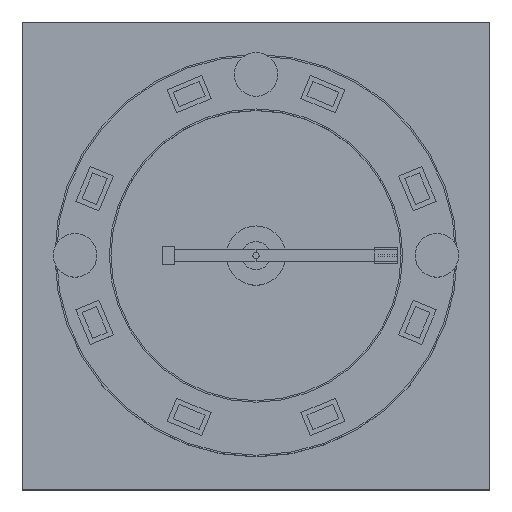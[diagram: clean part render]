
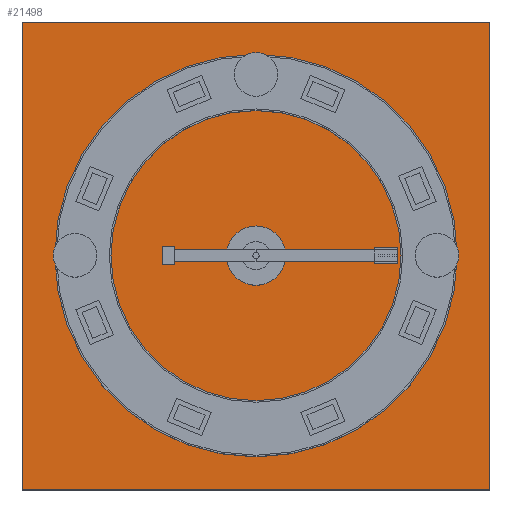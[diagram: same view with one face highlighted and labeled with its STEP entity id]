
A CAD part, top view. The second image highlights one B-rep face of the part: STEP entity #21498.
In plain terms, the highlighted planar face has unit normal (0, 0, 1).
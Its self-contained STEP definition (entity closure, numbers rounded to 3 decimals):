
#21184 = VERTEX_POINT('',#21185);
#21185 = CARTESIAN_POINT('',(-750.,-750.,-710.));
#21192 = PLANE('',#21193);
#21193 = AXIS2_PLACEMENT_3D('',#21194,#21195,#21196);
#21194 = CARTESIAN_POINT('',(-750.,-750.,-730.));
#21195 = DIRECTION('',(1.,0.,-0.));
#21196 = DIRECTION('',(0.,0.,1.));
#21204 = PLANE('',#21205);
#21205 = AXIS2_PLACEMENT_3D('',#21206,#21207,#21208);
#21206 = CARTESIAN_POINT('',(-750.,-750.,-730.));
#21207 = DIRECTION('',(-0.,1.,0.));
#21208 = DIRECTION('',(0.,0.,1.));
#21245 = VERTEX_POINT('',#21246);
#21246 = CARTESIAN_POINT('',(-750.,750.,-710.));
#21260 = PLANE('',#21261);
#21261 = AXIS2_PLACEMENT_3D('',#21262,#21263,#21264);
#21262 = CARTESIAN_POINT('',(-750.,750.,-730.));
#21263 = DIRECTION('',(-0.,1.,0.));
#21264 = DIRECTION('',(0.,0.,1.));
#21272 = EDGE_CURVE('',#21184,#21245,#21273,.T.);
#21273 = SURFACE_CURVE('',#21274,(#21278,#21285),.PCURVE_S1.);
#21274 = LINE('',#21275,#21276);
#21275 = CARTESIAN_POINT('',(-750.,-750.,-710.));
#21276 = VECTOR('',#21277,1.);
#21277 = DIRECTION('',(-0.,1.,0.));
#21278 = PCURVE('',#21192,#21279);
#21279 = DEFINITIONAL_REPRESENTATION('',(#21280),#21284);
#21280 = LINE('',#21281,#21282);
#21281 = CARTESIAN_POINT('',(20.,0.));
#21282 = VECTOR('',#21283,1.);
#21283 = DIRECTION('',(0.,-1.));
#21284 = ( GEOMETRIC_REPRESENTATION_CONTEXT(2) 
PARAMETRIC_REPRESENTATION_CONTEXT() REPRESENTATION_CONTEXT('2D SPACE',''
  ) );
#21285 = PCURVE('',#21286,#21291);
#21286 = PLANE('',#21287);
#21287 = AXIS2_PLACEMENT_3D('',#21288,#21289,#21290);
#21288 = CARTESIAN_POINT('',(-750.,-750.,-710.));
#21289 = DIRECTION('',(0.,0.,1.));
#21290 = DIRECTION('',(1.,0.,-0.));
#21291 = DEFINITIONAL_REPRESENTATION('',(#21292),#21296);
#21292 = LINE('',#21293,#21294);
#21293 = CARTESIAN_POINT('',(0.,0.));
#21294 = VECTOR('',#21295,1.);
#21295 = DIRECTION('',(0.,1.));
#21296 = ( GEOMETRIC_REPRESENTATION_CONTEXT(2) 
PARAMETRIC_REPRESENTATION_CONTEXT() REPRESENTATION_CONTEXT('2D SPACE',''
  ) );
#21304 = VERTEX_POINT('',#21305);
#21305 = CARTESIAN_POINT('',(750.,-750.,-710.));
#21312 = PLANE('',#21313);
#21313 = AXIS2_PLACEMENT_3D('',#21314,#21315,#21316);
#21314 = CARTESIAN_POINT('',(750.,-750.,-730.));
#21315 = DIRECTION('',(1.,0.,-0.));
#21316 = DIRECTION('',(0.,0.,1.));
#21355 = VERTEX_POINT('',#21356);
#21356 = CARTESIAN_POINT('',(750.,750.,-710.));
#21377 = EDGE_CURVE('',#21304,#21355,#21378,.T.);
#21378 = SURFACE_CURVE('',#21379,(#21383,#21390),.PCURVE_S1.);
#21379 = LINE('',#21380,#21381);
#21380 = CARTESIAN_POINT('',(750.,-750.,-710.));
#21381 = VECTOR('',#21382,1.);
#21382 = DIRECTION('',(-0.,1.,0.));
#21383 = PCURVE('',#21312,#21384);
#21384 = DEFINITIONAL_REPRESENTATION('',(#21385),#21389);
#21385 = LINE('',#21386,#21387);
#21386 = CARTESIAN_POINT('',(20.,0.));
#21387 = VECTOR('',#21388,1.);
#21388 = DIRECTION('',(0.,-1.));
#21389 = ( GEOMETRIC_REPRESENTATION_CONTEXT(2) 
PARAMETRIC_REPRESENTATION_CONTEXT() REPRESENTATION_CONTEXT('2D SPACE',''
  ) );
#21390 = PCURVE('',#21286,#21391);
#21391 = DEFINITIONAL_REPRESENTATION('',(#21392),#21396);
#21392 = LINE('',#21393,#21394);
#21393 = CARTESIAN_POINT('',(1500.,0.));
#21394 = VECTOR('',#21395,1.);
#21395 = DIRECTION('',(0.,1.));
#21396 = ( GEOMETRIC_REPRESENTATION_CONTEXT(2) 
PARAMETRIC_REPRESENTATION_CONTEXT() REPRESENTATION_CONTEXT('2D SPACE',''
  ) );
#21423 = EDGE_CURVE('',#21184,#21304,#21424,.T.);
#21424 = SURFACE_CURVE('',#21425,(#21429,#21436),.PCURVE_S1.);
#21425 = LINE('',#21426,#21427);
#21426 = CARTESIAN_POINT('',(-750.,-750.,-710.));
#21427 = VECTOR('',#21428,1.);
#21428 = DIRECTION('',(1.,0.,-0.));
#21429 = PCURVE('',#21204,#21430);
#21430 = DEFINITIONAL_REPRESENTATION('',(#21431),#21435);
#21431 = LINE('',#21432,#21433);
#21432 = CARTESIAN_POINT('',(20.,0.));
#21433 = VECTOR('',#21434,1.);
#21434 = DIRECTION('',(0.,1.));
#21435 = ( GEOMETRIC_REPRESENTATION_CONTEXT(2) 
PARAMETRIC_REPRESENTATION_CONTEXT() REPRESENTATION_CONTEXT('2D SPACE',''
  ) );
#21436 = PCURVE('',#21286,#21437);
#21437 = DEFINITIONAL_REPRESENTATION('',(#21438),#21442);
#21438 = LINE('',#21439,#21440);
#21439 = CARTESIAN_POINT('',(0.,0.));
#21440 = VECTOR('',#21441,1.);
#21441 = DIRECTION('',(1.,0.));
#21442 = ( GEOMETRIC_REPRESENTATION_CONTEXT(2) 
PARAMETRIC_REPRESENTATION_CONTEXT() REPRESENTATION_CONTEXT('2D SPACE',''
  ) );
#21470 = EDGE_CURVE('',#21245,#21355,#21471,.T.);
#21471 = SURFACE_CURVE('',#21472,(#21476,#21483),.PCURVE_S1.);
#21472 = LINE('',#21473,#21474);
#21473 = CARTESIAN_POINT('',(-750.,750.,-710.));
#21474 = VECTOR('',#21475,1.);
#21475 = DIRECTION('',(1.,0.,-0.));
#21476 = PCURVE('',#21260,#21477);
#21477 = DEFINITIONAL_REPRESENTATION('',(#21478),#21482);
#21478 = LINE('',#21479,#21480);
#21479 = CARTESIAN_POINT('',(20.,0.));
#21480 = VECTOR('',#21481,1.);
#21481 = DIRECTION('',(0.,1.));
#21482 = ( GEOMETRIC_REPRESENTATION_CONTEXT(2) 
PARAMETRIC_REPRESENTATION_CONTEXT() REPRESENTATION_CONTEXT('2D SPACE',''
  ) );
#21483 = PCURVE('',#21286,#21484);
#21484 = DEFINITIONAL_REPRESENTATION('',(#21485),#21489);
#21485 = LINE('',#21486,#21487);
#21486 = CARTESIAN_POINT('',(0.,1500.));
#21487 = VECTOR('',#21488,1.);
#21488 = DIRECTION('',(1.,0.));
#21489 = ( GEOMETRIC_REPRESENTATION_CONTEXT(2) 
PARAMETRIC_REPRESENTATION_CONTEXT() REPRESENTATION_CONTEXT('2D SPACE',''
  ) );
#21498 = ADVANCED_FACE('',(#21499),#21286,.T.);
#21499 = FACE_BOUND('',#21500,.T.);
#21500 = EDGE_LOOP('',(#21501,#21502,#21503,#21504));
#21501 = ORIENTED_EDGE('',*,*,#21272,.F.);
#21502 = ORIENTED_EDGE('',*,*,#21423,.T.);
#21503 = ORIENTED_EDGE('',*,*,#21377,.T.);
#21504 = ORIENTED_EDGE('',*,*,#21470,.F.);
